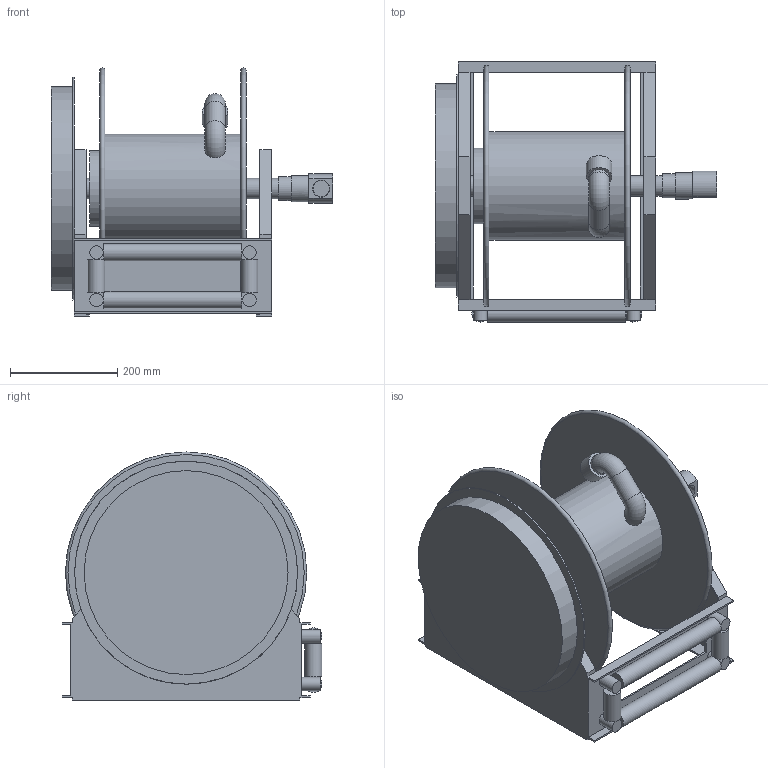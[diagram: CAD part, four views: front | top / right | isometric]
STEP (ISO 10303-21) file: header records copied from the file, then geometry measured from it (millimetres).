
FILE_DESCRIPTION( ( 'Unknown' ), '1' );
FILE_NAME( 'J:/NPD/RE 12893 3D WEB MODELS/SD10000 SERIES/SD14005 OXP.stp', 'Unknown', ( 'Unknown' ), ( 'Unknown' ), 'PSStep 10.1', 'Unknown', ' ' );
FILE_SCHEMA( ( 'AUTOMOTIVE_DESIGN { 1 0 10303 214 1 1 1 1 }' ) );
Length unit declared in the file: millimetre
Products named in the file (2): 1; 2
Bounding box: 525.7 x 485.62 x 463.55 mm (x, y, z)
Volume: 18704865.2 mm3; surface area: 1819303.8 mm2
Topology: 2 solids, 2 shells, 119 faces, 284 edges, 182 vertices
Faces by surface type: plane 86, cylinder 27, torus 4, cone 2
Full cylindrical faces by diameter (mm): 12.7 x4, 25.4 x4, 30.411 x2, 31.75 x4, 38.1 x5, 44.704 x1, 47.625 x1, 48.87 x1, 141.427 x1, 203.2 x1, 381 x1, 416.56 x1
Entity records: 4241 total; most frequent: CARTESIAN_POINT 626, DIRECTION 546, ORIENTED_EDGE 478, EDGE_CURVE 239, AXIS2_PLACEMENT_3D 187, EDGE_LOOP 180, LINE 172, VECTOR 172
